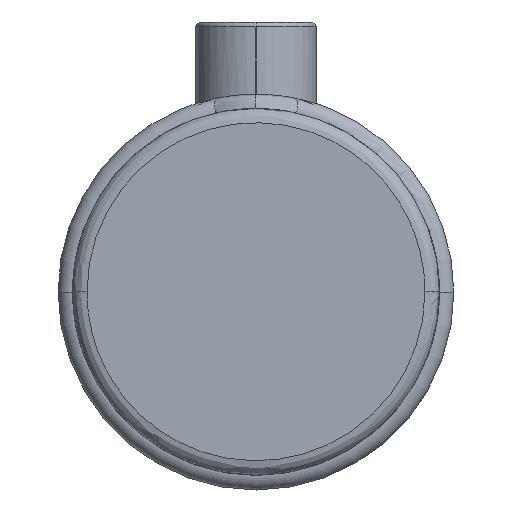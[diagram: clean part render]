
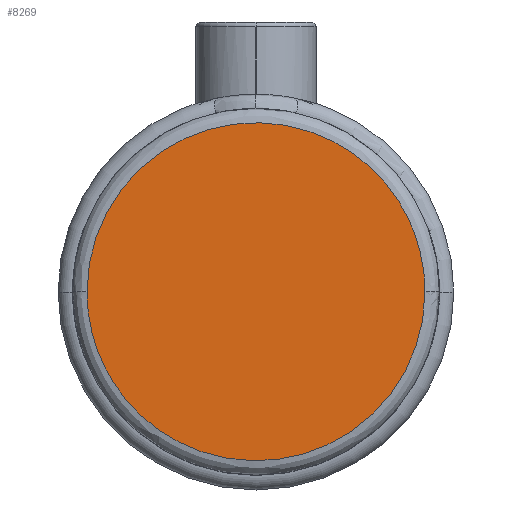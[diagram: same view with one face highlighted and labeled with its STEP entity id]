
A CAD part, top view. The second image highlights one B-rep face of the part: STEP entity #8269.
In plain terms, the highlighted planar face has unit normal (0, 0, 1).
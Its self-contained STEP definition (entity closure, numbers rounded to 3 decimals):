
#5 = CARTESIAN_POINT ( 'NONE',  ( 0., 19.05, 50. ) ) ;
#275 = VERTEX_POINT ( 'NONE', #6645 ) ;
#414 = CARTESIAN_POINT ( 'NONE',  ( 35.1, 70.2, 50. ) ) ;
#1574 = CARTESIAN_POINT ( 'NONE',  ( 35.1, -70.2, 50. ) ) ;
#1613 = CARTESIAN_POINT ( 'NONE',  ( -35.1, 0., 50. ) ) ;
#1660 = PLANE ( 'NONE',  #9927 ) ;
#1702 = VERTEX_POINT ( 'NONE', #3742 ) ;
#2177 = EDGE_CURVE ( 'NONE', #275, #1702, #9248, .T. ) ;
#2402 = EDGE_LOOP ( 'NONE', ( #3539, #3666 ) ) ;
#2491 = DIRECTION ( 'NONE',  ( 1., 0., 0. ) ) ;
#3539 = ORIENTED_EDGE ( 'NONE', *, *, #2177, .F. ) ;
#3666 = ORIENTED_EDGE ( 'NONE', *, *, #5407, .F. ) ;
#3719 = CARTESIAN_POINT ( 'NONE',  ( -35.1, 70.2, 50. ) ) ;
#3742 = CARTESIAN_POINT ( 'NONE',  ( -35.1, 0., 50. ) ) ;
#5407 = EDGE_CURVE ( 'NONE', #1702, #275, #5695, .T. ) ;
#5695 =( BOUNDED_CURVE ( )  B_SPLINE_CURVE ( 3, ( #10530, #3719, #414, #6292 ),
 .UNSPECIFIED., .F., .T. ) 
 B_SPLINE_CURVE_WITH_KNOTS ( ( 4, 4 ),
 ( 0.75, 1.25 ),
 .UNSPECIFIED. ) 
 CURVE ( )  GEOMETRIC_REPRESENTATION_ITEM ( )  RATIONAL_B_SPLINE_CURVE ( ( 1., 0.333, 0.333, 1. ) ) 
 REPRESENTATION_ITEM ( '' )  );
#6292 = CARTESIAN_POINT ( 'NONE',  ( 35.1, 0., 50. ) ) ;
#6533 = FACE_OUTER_BOUND ( 'NONE', #2402, .T. ) ;
#6638 = CARTESIAN_POINT ( 'NONE',  ( 35.1, 0., 50. ) ) ;
#6645 = CARTESIAN_POINT ( 'NONE',  ( 35.1, 0., 50. ) ) ;
#6676 = CARTESIAN_POINT ( 'NONE',  ( -35.1, -70.2, 50. ) ) ;
#7593 = DIRECTION ( 'NONE',  ( 0., 0., 1. ) ) ;
#8269 = ADVANCED_FACE ( 'NONE', ( #6533 ), #1660, .T. ) ;
#9248 =( BOUNDED_CURVE ( )  B_SPLINE_CURVE ( 3, ( #6638, #1574, #6676, #1613 ),
 .UNSPECIFIED., .F., .F. ) 
 B_SPLINE_CURVE_WITH_KNOTS ( ( 4, 4 ),
 ( 0.25, 0.75 ),
 .UNSPECIFIED. ) 
 CURVE ( )  GEOMETRIC_REPRESENTATION_ITEM ( )  RATIONAL_B_SPLINE_CURVE ( ( 1., 0.333, 0.333, 1. ) ) 
 REPRESENTATION_ITEM ( '' )  );
#9927 = AXIS2_PLACEMENT_3D ( 'NONE', #5, #7593, #2491 ) ;
#10530 = CARTESIAN_POINT ( 'NONE',  ( -35.1, 0., 50. ) ) ;
